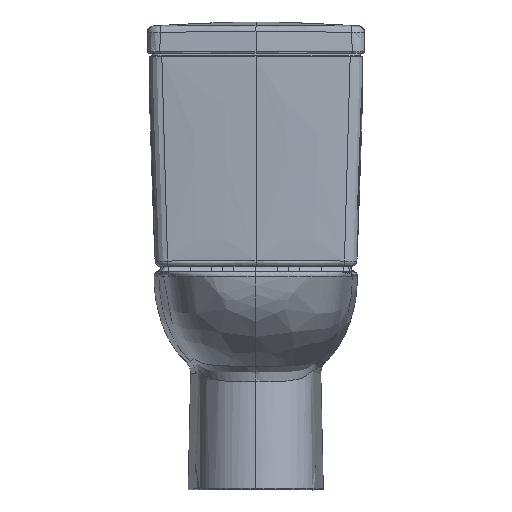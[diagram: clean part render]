
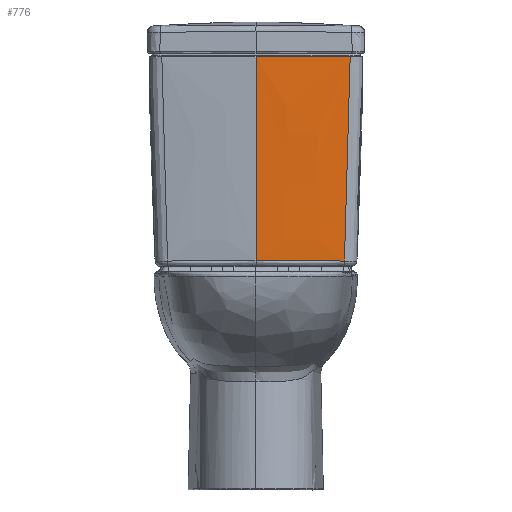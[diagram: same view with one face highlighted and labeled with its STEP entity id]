
A CAD part, front view. The second image highlights one B-rep face of the part: STEP entity #776.
In plain terms, the highlighted free-form (B-spline) face has degree [3, 3] with [14, 4] control points.
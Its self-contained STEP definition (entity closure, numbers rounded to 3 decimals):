
#101=B_SPLINE_SURFACE_WITH_KNOTS('',3,3,((#9040,#9041,#9042,#9043),(#9044,
#9045,#9046,#9047),(#9048,#9049,#9050,#9051),(#9052,#9053,#9054,#9055),
(#9056,#9057,#9058,#9059),(#9060,#9061,#9062,#9063),(#9064,#9065,#9066,
#9067),(#9068,#9069,#9070,#9071),(#9072,#9073,#9074,#9075),(#9076,#9077,
#9078,#9079),(#9080,#9081,#9082,#9083),(#9084,#9085,#9086,#9087),(#9088,
#9089,#9090,#9091),(#9092,#9093,#9094,#9095)),.UNSPECIFIED.,.F.,.F.,.F.,
(4,1,1,1,1,1,1,1,1,1,1,4),(4,4),(0.,0.255,0.382,
0.51,0.637,0.717,0.741,
0.765,0.789,0.812,0.892,
1.),(0.,1.),.UNSPECIFIED.);
#577=(
BOUNDED_CURVE()
B_SPLINE_CURVE(3,(#9000,#9001,#9002,#9003,#9004,#9005,#9006,#9007,#9008,
#9009,#9010,#9011,#9012,#9013,#9014,#9015,#9016,#9017,#9018,#9019),
 .UNSPECIFIED.,.F.,.F.)
B_SPLINE_CURVE_WITH_KNOTS((4,2,2,2,2,2,2,2,2,4),(0.,0.008,
0.04,0.104,0.233,0.491,
0.62,0.748,0.877,1.),.UNSPECIFIED.)
CURVE()
GEOMETRIC_REPRESENTATION_ITEM()
RATIONAL_B_SPLINE_CURVE((1.,1.,1.,
1.,1.,1.,1.,
1.,1.,1.,1.,
1.,1.,1.,1.,
1.,1.,1.,1.,
1.))
REPRESENTATION_ITEM('')
);
#578=(
BOUNDED_CURVE()
B_SPLINE_CURVE(3,(#9036,#9037,#9038,#9039),.UNSPECIFIED.,.F.,.F.)
B_SPLINE_CURVE_WITH_KNOTS((4,4),(0.,1.),.UNSPECIFIED.)
CURVE()
GEOMETRIC_REPRESENTATION_ITEM()
RATIONAL_B_SPLINE_CURVE((1.,1.,1.,1.))
REPRESENTATION_ITEM('')
);
#776=ADVANCED_FACE('',(#1190),#101,.F.);
#1190=FACE_OUTER_BOUND('',#1542,.T.);
#1542=EDGE_LOOP('',(#2143,#2144,#2145,#2146));
#2143=ORIENTED_EDGE('',*,*,#4320,.F.);
#2144=ORIENTED_EDGE('',*,*,#4256,.T.);
#2145=ORIENTED_EDGE('',*,*,#4321,.F.);
#2146=ORIENTED_EDGE('',*,*,#4322,.F.);
#3702=VERTEX_POINT('',#8029);
#3703=VERTEX_POINT('',#8036);
#3740=VERTEX_POINT('',#9020);
#3741=VERTEX_POINT('',#9035);
#4256=EDGE_CURVE('',#3702,#3703,#5084,.T.);
#4320=EDGE_CURVE('',#3702,#3740,#577,.T.);
#4321=EDGE_CURVE('',#3741,#3703,#5115,.T.);
#4322=EDGE_CURVE('',#3740,#3741,#578,.T.);
#5084=B_SPLINE_CURVE_WITH_KNOTS('',3,(#8037,#8038,#8039,#8040),
 .UNSPECIFIED.,.F.,.F.,(4,4),(0.,1.),.UNSPECIFIED.);
#5115=B_SPLINE_CURVE_WITH_KNOTS('',3,(#9021,#9022,#9023,#9024,#9025,#9026,
#9027,#9028,#9029,#9030,#9031,#9032,#9033,#9034),.UNSPECIFIED.,.F.,.F.,
(4,1,1,1,1,1,1,1,1,1,1,4),(0.,0.104,0.186,0.211,
0.235,0.259,0.284,0.366,
0.496,0.627,0.757,1.),.UNSPECIFIED.);
#8029=CARTESIAN_POINT('',(173.128,-154.966,793.998));
#8036=CARTESIAN_POINT('',(0.494,-161.994,793.998));
#8037=CARTESIAN_POINT('',(173.128,-154.966,793.998));
#8038=CARTESIAN_POINT('',(115.71,-159.648,793.998));
#8039=CARTESIAN_POINT('',(58.102,-161.996,793.998));
#8040=CARTESIAN_POINT('',(0.494,-161.994,793.998));
#9000=CARTESIAN_POINT('',(173.128,-154.966,793.998));
#9001=CARTESIAN_POINT('',(173.127,-154.964,793.055));
#9002=CARTESIAN_POINT('',(173.125,-154.963,792.113));
#9003=CARTESIAN_POINT('',(173.113,-154.95,787.128));
#9004=CARTESIAN_POINT('',(173.095,-154.935,783.086));
#9005=CARTESIAN_POINT('',(173.018,-154.871,770.964));
#9006=CARTESIAN_POINT('',(172.936,-154.806,762.887));
#9007=CARTESIAN_POINT('',(172.607,-154.554,738.668));
#9008=CARTESIAN_POINT('',(172.28,-154.31,722.538));
#9009=CARTESIAN_POINT('',(171.072,-153.426,674.195));
#9010=CARTESIAN_POINT('',(169.966,-152.633,642.037));
#9011=CARTESIAN_POINT('',(168.249,-151.439,593.889));
#9012=CARTESIAN_POINT('',(167.667,-151.04,577.854));
#9013=CARTESIAN_POINT('',(166.544,-150.288,545.808));
#9014=CARTESIAN_POINT('',(166.004,-149.936,529.807));
#9015=CARTESIAN_POINT('',(165.019,-149.322,497.788));
#9016=CARTESIAN_POINT('',(164.545,-149.036,481.716));
#9017=CARTESIAN_POINT('',(163.588,-148.464,450.373));
#9018=CARTESIAN_POINT('',(163.115,-148.187,435.082));
#9019=CARTESIAN_POINT('',(162.633,-147.91,419.791));
#9020=CARTESIAN_POINT('',(162.633,-147.91,419.791));
#9021=CARTESIAN_POINT('',(0.494,-155.176,419.821));
#9022=CARTESIAN_POINT('',(0.494,-155.408,432.839));
#9023=CARTESIAN_POINT('',(0.494,-155.822,456.04));
#9024=CARTESIAN_POINT('',(0.494,-156.292,482.295));
#9025=CARTESIAN_POINT('',(0.494,-156.583,498.587));
#9026=CARTESIAN_POINT('',(0.494,-156.749,507.752));
#9027=CARTESIAN_POINT('',(0.494,-156.921,516.916));
#9028=CARTESIAN_POINT('',(0.494,-157.238,533.207));
#9029=CARTESIAN_POINT('',(0.494,-157.87,562.734));
#9030=CARTESIAN_POINT('',(0.494,-158.888,605.495));
#9031=CARTESIAN_POINT('',(0.494,-160.055,654.366));
#9032=CARTESIAN_POINT('',(0.494,-161.368,717.198));
#9033=CARTESIAN_POINT('',(0.494,-161.943,763.744));
#9034=CARTESIAN_POINT('',(0.494,-161.994,793.998));
#9035=CARTESIAN_POINT('',(0.494,-155.176,419.821));
#9036=CARTESIAN_POINT('',(162.633,-147.91,419.791));
#9037=CARTESIAN_POINT('',(108.733,-152.75,419.811));
#9038=CARTESIAN_POINT('',(54.614,-155.176,419.821));
#9039=CARTESIAN_POINT('',(0.494,-155.176,419.821));
#9040=CARTESIAN_POINT('',(174.247,-154.881,801.));
#9041=CARTESIAN_POINT('',(116.459,-159.622,801.));
#9042=CARTESIAN_POINT('',(58.476,-162.,801.));
#9043=CARTESIAN_POINT('',(0.494,-162.,801.));
#9044=CARTESIAN_POINT('',(174.248,-154.884,768.397));
#9045=CARTESIAN_POINT('',(116.461,-159.632,768.401));
#9046=CARTESIAN_POINT('',(58.477,-162.01,768.406));
#9047=CARTESIAN_POINT('',(0.494,-162.,768.411));
#9048=CARTESIAN_POINT('',(173.398,-154.277,719.497));
#9049=CARTESIAN_POINT('',(115.897,-159.046,719.509));
#9050=CARTESIAN_POINT('',(58.195,-161.431,719.52));
#9051=CARTESIAN_POINT('',(0.494,-161.417,719.531));
#9052=CARTESIAN_POINT('',(171.413,-152.855,654.34));
#9053=CARTESIAN_POINT('',(114.577,-157.661,654.349));
#9054=CARTESIAN_POINT('',(57.535,-160.066,654.358));
#9055=CARTESIAN_POINT('',(0.494,-160.055,654.366));
#9056=CARTESIAN_POINT('',(169.712,-151.636,605.483));
#9057=CARTESIAN_POINT('',(113.445,-156.473,605.487));
#9058=CARTESIAN_POINT('',(56.97,-158.895,605.491));
#9059=CARTESIAN_POINT('',(0.494,-158.888,605.495));
#9060=CARTESIAN_POINT('',(168.226,-150.571,562.734));
#9061=CARTESIAN_POINT('',(112.457,-155.435,562.734));
#9062=CARTESIAN_POINT('',(56.476,-157.872,562.734));
#9063=CARTESIAN_POINT('',(0.494,-157.87,562.734));
#9064=CARTESIAN_POINT('',(167.304,-149.91,533.211));
#9065=CARTESIAN_POINT('',(111.844,-154.791,533.209));
#9066=CARTESIAN_POINT('',(56.169,-157.238,533.208));
#9067=CARTESIAN_POINT('',(0.494,-157.238,533.207));
#9068=CARTESIAN_POINT('',(166.841,-149.579,516.92));
#9069=CARTESIAN_POINT('',(111.536,-154.469,516.918));
#9070=CARTESIAN_POINT('',(56.015,-156.92,516.917));
#9071=CARTESIAN_POINT('',(0.494,-156.921,516.916));
#9072=CARTESIAN_POINT('',(166.594,-149.402,507.756));
#9073=CARTESIAN_POINT('',(111.372,-154.296,507.754));
#9074=CARTESIAN_POINT('',(55.933,-156.749,507.753));
#9075=CARTESIAN_POINT('',(0.494,-156.749,507.752));
#9076=CARTESIAN_POINT('',(166.354,-149.23,498.591));
#9077=CARTESIAN_POINT('',(111.212,-154.128,498.59));
#9078=CARTESIAN_POINT('',(55.853,-156.583,498.589));
#9079=CARTESIAN_POINT('',(0.494,-156.583,498.587));
#9080=CARTESIAN_POINT('',(165.928,-148.925,482.298));
#9081=CARTESIAN_POINT('',(110.929,-153.833,482.297));
#9082=CARTESIAN_POINT('',(55.712,-156.292,482.296));
#9083=CARTESIAN_POINT('',(0.494,-156.292,482.295));
#9084=CARTESIAN_POINT('',(165.223,-148.421,455.269));
#9085=CARTESIAN_POINT('',(110.461,-153.342,455.269));
#9086=CARTESIAN_POINT('',(55.477,-155.808,455.268));
#9087=CARTESIAN_POINT('',(0.494,-155.808,455.268));
#9088=CARTESIAN_POINT('',(164.599,-147.974,431.295));
#9089=CARTESIAN_POINT('',(110.046,-152.908,431.295));
#9090=CARTESIAN_POINT('',(55.27,-155.381,431.295));
#9091=CARTESIAN_POINT('',(0.494,-155.381,431.294));
#9092=CARTESIAN_POINT('',(164.239,-147.716,417.504));
#9093=CARTESIAN_POINT('',(109.807,-152.658,417.504));
#9094=CARTESIAN_POINT('',(55.15,-155.134,417.504));
#9095=CARTESIAN_POINT('',(0.494,-155.134,417.504));
